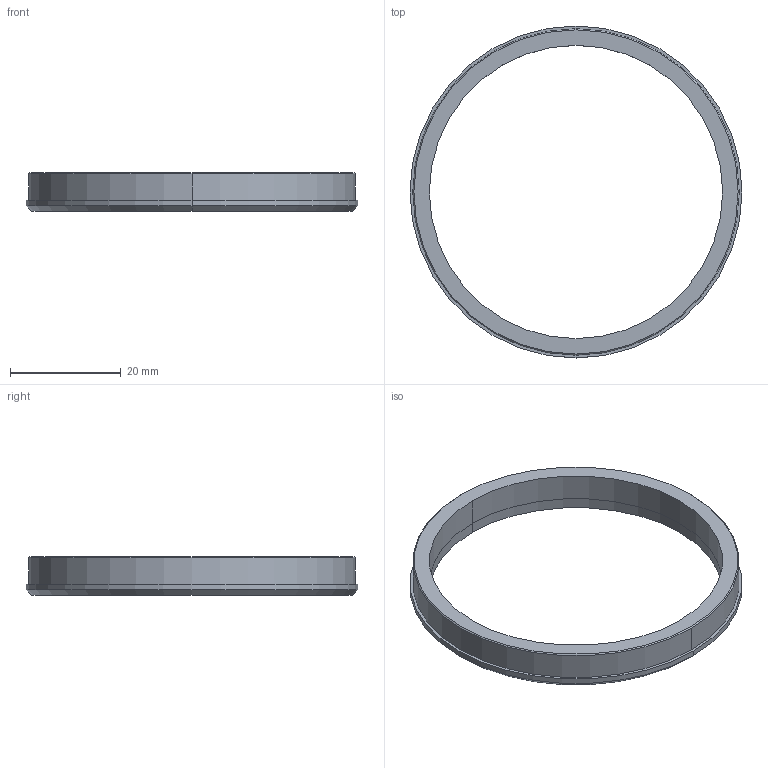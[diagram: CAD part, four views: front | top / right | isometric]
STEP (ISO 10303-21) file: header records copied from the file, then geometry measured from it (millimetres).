
FILE_DESCRIPTION(/* description */ ('VariCAD 2008 3.04 AP-203'),/* implementation_level */ '2;1');
FILE_NAME(/* name */ '0353-19-12',/* time_stamp */ '2009-04-22T22:37:05-06:00',/* author */ (''),/* organization */ (''),/* preprocessor_version */ 'ST-DEVELOPER v12',/* originating_system */ 'VariCAD 2008 3.04; kernel version (20080715)',/* authorisation */ '');
FILE_SCHEMA (('CONFIG_CONTROL_DESIGN'));
Length unit declared in the file: millimetre
Products named in the file (1): Part
Bounding box: 60 x 60 x 7 mm (x, y, z)
Volume: 3784.5 mm3; surface area: 3578.3 mm2
Topology: 1 solids, 1 shells, 15 faces, 30 edges, 18 vertices
Faces by surface type: cylinder 8, cone 4, plane 3
Entity records: 444 total; most frequent: DIRECTION 82, CARTESIAN_POINT 65, ORIENTED_EDGE 60, AXIS2_PLACEMENT_3D 35, EDGE_CURVE 30, EDGE_LOOP 18, CIRCLE 18, VERTEX_POINT 18
